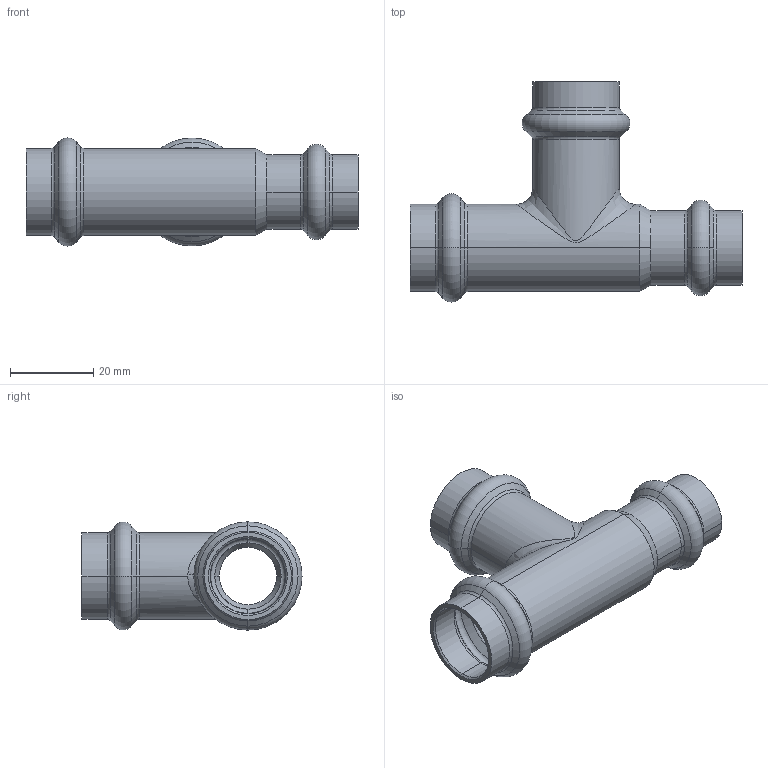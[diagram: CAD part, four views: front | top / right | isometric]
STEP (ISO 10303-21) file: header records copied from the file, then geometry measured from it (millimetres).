
FILE_DESCRIPTION (( 'STEP AP203' ), '1' );
FILE_NAME ('SP5130 Ø18-18-15.STEP', '2017-04-25T14:51:03', ( '' ), ( '' ), 'SwSTEP 2.0', 'SolidWorks 2016', '' );
FILE_SCHEMA (( 'CONFIG_CONTROL_DESIGN' ));
Length unit declared in the file: millimetre
Products named in the file (1): SP5130 Ø18-18-15
Bounding box: 80 x 53.05 x 26.1 mm (x, y, z)
Volume: 11914.6 mm3; surface area: 14028.2 mm2
Topology: 1 solids, 1 shells, 113 faces, 244 edges, 136 vertices
Faces by surface type: torus 38, cone 36, cylinder 30, plane 5, bspline 4
Entity records: 4462 total; most frequent: CARTESIAN_POINT 1847, DIRECTION 618, ORIENTED_EDGE 488, AXIS2_PLACEMENT_3D 276, EDGE_CURVE 244, CIRCLE 166, VERTEX_POINT 136, EDGE_LOOP 120
